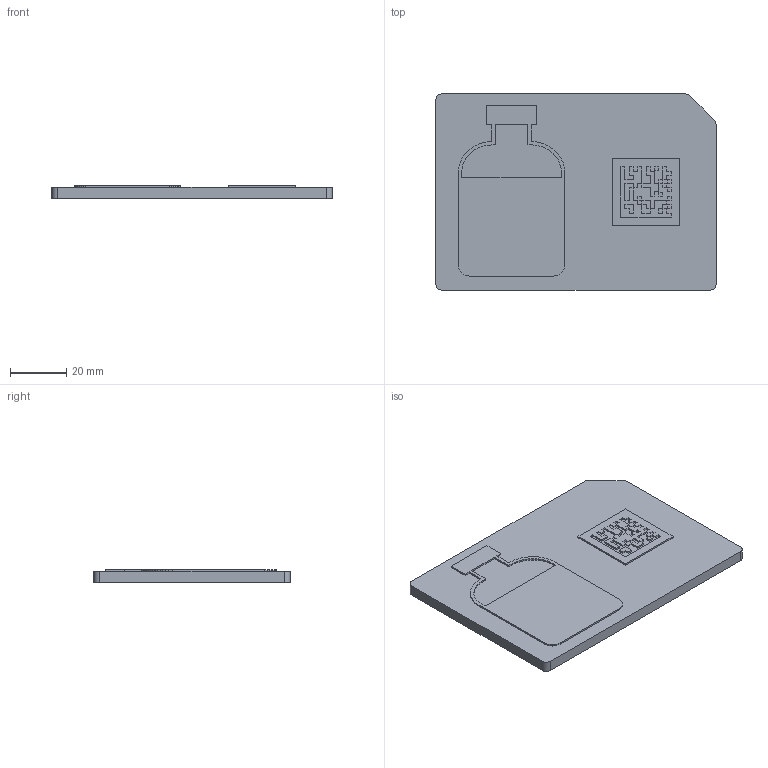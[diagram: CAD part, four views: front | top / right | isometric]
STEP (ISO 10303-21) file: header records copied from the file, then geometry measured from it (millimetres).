
FILE_DESCRIPTION(('Open CASCADE Model'),'2;1');
FILE_NAME('Open CASCADE Shape Model','2026-10-14T18:10:04',('Author'),( 'Open CASCADE'),'Open CASCADE STEP processor 7.9','Open CASCADE 7.9' ,'Unknown');
FILE_SCHEMA(('AUTOMOTIVE_DESIGN { 1 0 10303 214 1 1 1 1 }'));
Length unit declared in the file: millimetre
Products named in the file (3): SN-4833; SN-4833_base_dark; SN-4833_features_red
Assembly tree (2 placements, depth 2):
  SN-4833
    SN-4833_base_dark
    SN-4833_features_red
Bounding box: 100 x 70 x 4.6 mm (x, y, z)
Volume: 28938.7 mm3; surface area: 20464.6 mm2
Topology: 4 solids, 4 shells, 477 faces, 1356 edges, 904 vertices
Faces by surface type: plane 472, cylinder 5
Entity records: 32500 total; most frequent: CARTESIAN_POINT 5906, DIRECTION 4594, LINE 3606, VECTOR 3606, ORIENTED_EDGE 2712, PCURVE 2712, DEFINITIONAL_REPRESENTATION 2712, EDGE_CURVE 1356
